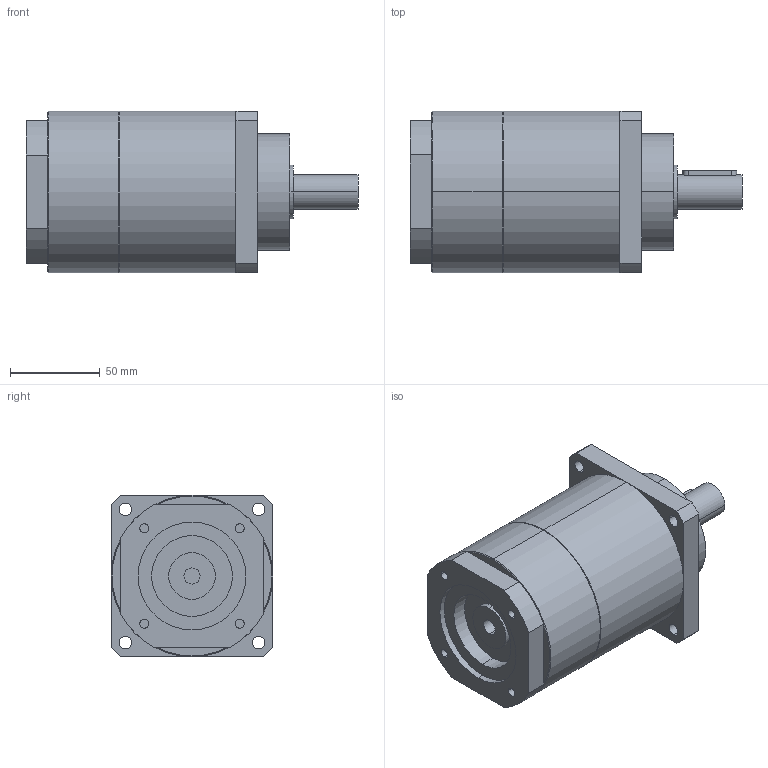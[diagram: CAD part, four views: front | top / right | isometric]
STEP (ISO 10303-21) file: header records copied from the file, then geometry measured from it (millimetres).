
FILE_DESCRIPTION(('CoCreate Modeling STEP Export'),'2;1');
FILE_NAME('GPT90_ig-9-12-16-20-25-28-35-40-50-70-100_19_B5T_9_P23.stp','2015-02-04T11:33:54',(''),(''),'CoCreate Modeling STEP processor for AP214 (Solid Model)','CoCreate Modeling 16.00C 25-Feb-2009 (C) Parametric Technology GmbH','');
FILE_SCHEMA(('AUTOMOTIVE_DESIGN { 1 0 10303 214 1 1 1 1 }'));
Length unit declared in the file: millimetre
Products named in the file (2): GPT90_ig-9-12-16-20-25-28-35-40-50-70-100_19_B5T_9_P23
Assembly tree (1 placements, depth 2):
  GPT90_ig-9-12-16-20-25-28-35-40-50-70-100_19_B5T_9_P23
    GPT90_ig-9-12-16-20-25-28-35-40-50-70-100_19_B5T_9_P23
Bounding box: 185 x 90 x 90 mm (x, y, z)
Volume: 878644.9 mm3; surface area: 64600.9 mm2
Topology: 1 solids, 1 shells, 88 faces, 221 edges, 148 vertices
Faces by surface type: cylinder 46, plane 38, cone 4
Entity records: 2699 total; most frequent: CARTESIAN_POINT 754, ORIENTED_EDGE 442, DIRECTION 330, EDGE_CURVE 221, VERTEX_POINT 148, AXIS2_PLACEMENT_3D 121, EDGE_LOOP 109, VECTOR 88
